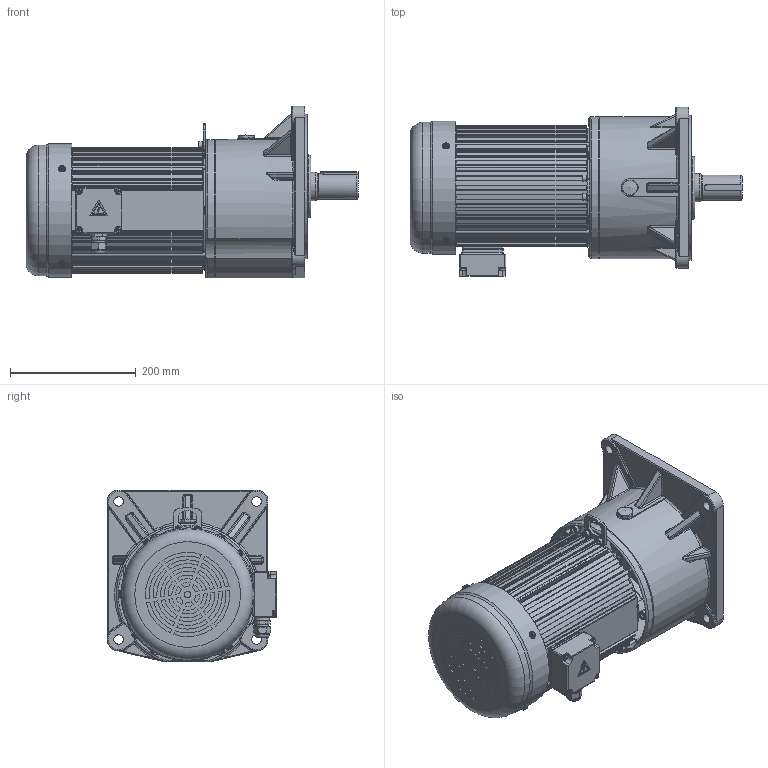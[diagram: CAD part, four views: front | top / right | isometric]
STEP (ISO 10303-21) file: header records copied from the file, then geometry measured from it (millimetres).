
FILE_DESCRIPTION(/* description */ (''),/* implementation_level */ '2;1');
FILE_NAME(/* name */ 'PST00001220_A0-小型交流减速电机-527.5_255.2_272.8-Φ40_85_K10-CV40-3700-200S2-G1-LD_T1.stp',/* time_stamp */ '2025-04-23T15:03:55+08:00',/* author */ (''),/* organization */ (''),/* preprocessor_version */ 'ST-DEVELOPER v18.102',/* originating_system */ 'SIEMENS PLM Software NX 2027',/* authorisation */ '');
FILE_SCHEMA (('AP203_CONFIGURATION_CONTROLLED_3D_DESIGN_OF_MECHANICAL_PARTS_AND_ASSEMBLIES_MIM_LF { 1 0 10303 403 2 1 2}'));
Length unit declared in the file: millimetre
Products named in the file (1): A0_M2293A1C1C455oru
Bounding box: 527.5 x 269.1 x 272.8 mm (x, y, z)
Volume: 15940772.8 mm3; surface area: 757406.8 mm2
Topology: 8 solids, 8 shells, 2588 faces, 6545 edges, 4125 vertices
Faces by surface type: plane 1204, cylinder 758, cone 281, bspline 172, torus 124, revolution 32, sphere 17
Full cylindrical faces by diameter (mm): 1 x1, 1.8 x1, 3 x2, 4 x1, 4.2 x8, 4.336 x4, 4.6 x4, 4.826 x6, 5 x14, 5.795 x2, 5.89 x4, 6.4 x4, 7 x2, 7.76 x6, 8.5 x10, 9 x4, 10 x3, 11 x4, 13 x6, 14 x6, 15 x4, 20 x1, 21 x1, 22.5 x1, 23.027 x1, 23.2 x1, 25 x2, 39.6 x1, 40 x1, 45 x2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
Entity records: 81498 total; most frequent: CARTESIAN_POINT 21189, ORIENTED_EDGE 12426, DIRECTION 12419, EDGE_CURVE 6213, AXIS2_PLACEMENT_3D 4807, VERTEX_POINT 4035, EDGE_LOOP 3002, LINE 2773
